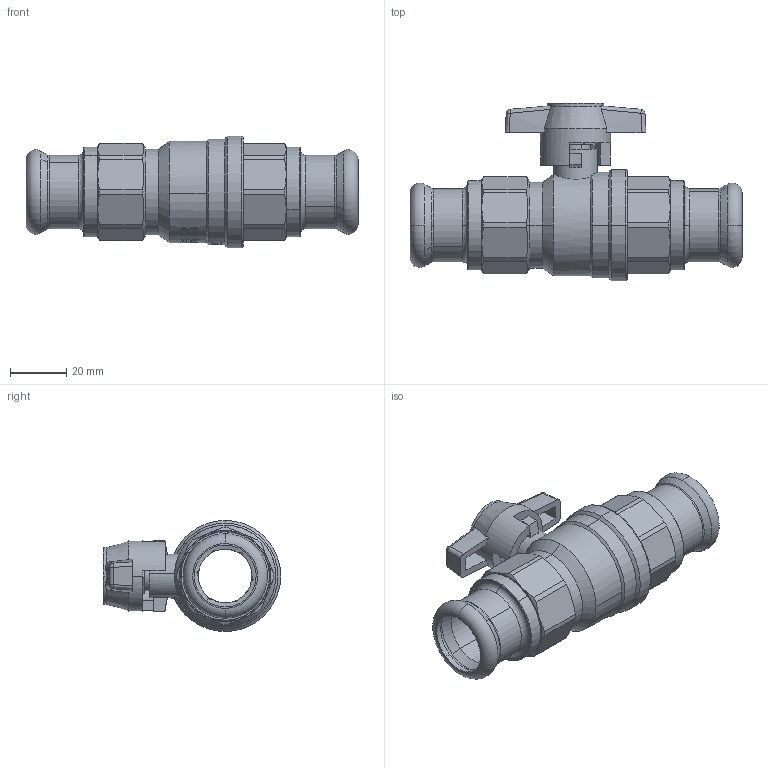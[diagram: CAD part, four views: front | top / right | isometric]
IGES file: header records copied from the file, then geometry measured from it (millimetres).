
Global section: file name: No Iges File Name specified; native system: AutoDesk Inventor R12.0; preprocessor: AutoDesk Inventor Iges Exporter R12.0; date: 20111208.142739; units: millimetre
Bounding box: 117.9 x 63.05 x 39.5 mm (x, y, z)
Volume: 49031.1 mm3; surface area: 33493.7 mm2
Topology: 1 solids, 6 shells, 745 faces, 2029 edges, 1351 vertices
Faces by surface type: plane 331, revolution 118, bspline 118, cylinder 81, cone 79, torus 12, sphere 6
